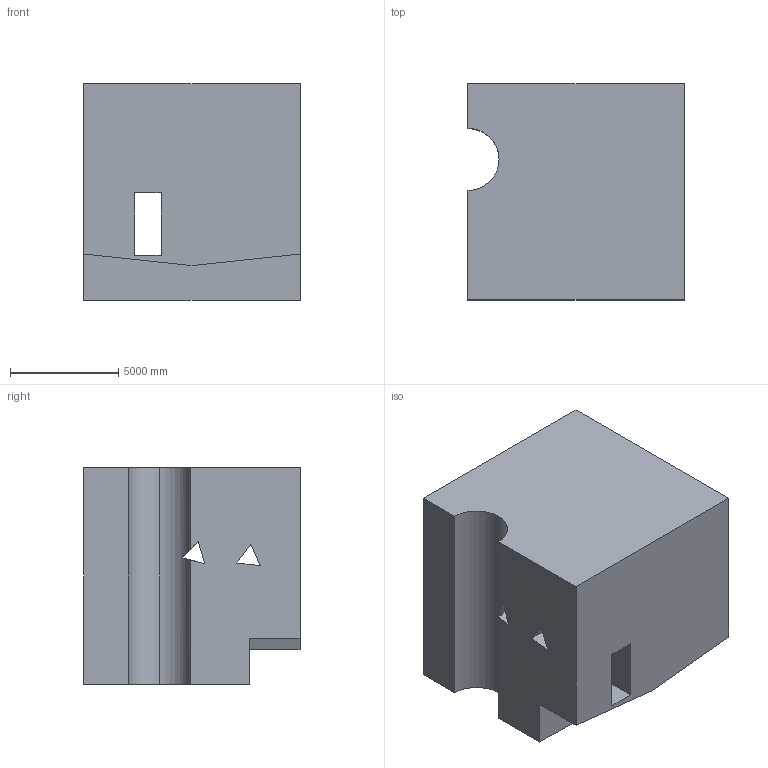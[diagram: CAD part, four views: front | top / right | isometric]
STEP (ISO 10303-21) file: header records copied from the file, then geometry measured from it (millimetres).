
FILE_DESCRIPTION (( 'STEP AP203' ), '1' );
FILE_NAME ('461.STEP', '2022-07-29T11:22:32', ( 'user' ), ( '' ), 'SwSTEP 2.0', 'SolidWorks 2021', '' );
FILE_SCHEMA (( 'CONFIG_CONTROL_DESIGN' ));
Length unit declared in the file: centimetre
Products named in the file (1): 461
Bounding box: 10000 x 10000 x 10000 mm (x, y, z)
Volume: 878151570045 mm3; surface area: 736936876.3 mm2
Topology: 1 solids, 1 shells, 22 faces, 63 edges, 42 vertices
Faces by surface type: plane 20, cylinder 2
Entity records: 800 total; most frequent: CARTESIAN_POINT 134, ORIENTED_EDGE 126, DIRECTION 111, EDGE_CURVE 63, VECTOR 57, LINE 57, VERTEX_POINT 42, EDGE_LOOP 27
